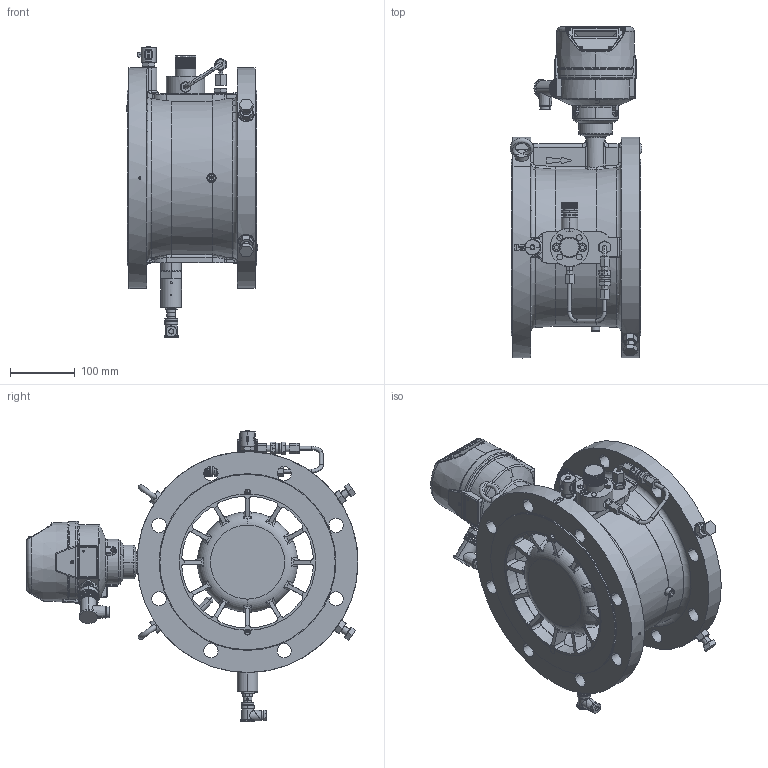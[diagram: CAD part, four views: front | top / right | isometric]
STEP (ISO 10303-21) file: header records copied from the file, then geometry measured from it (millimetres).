
FILE_DESCRIPTION((''),'2;1');
FILE_NAME('TRZ03K_DN200_PN10_L_R','2022-02-17T15:39:04',('R74676'),(''),'CREO PARAMETRIC BY PTC INC, 2020281','CREO PARAMETRIC BY PTC INC, 2020281','');
FILE_SCHEMA(('AP242_MANAGED_MODEL_BASED_3D_ENGINEERING_MIM_LF { 1 0 10303 442 1 1 4 }'));
Products named in the file (2): TRZ03K_DN200_PN10_L_R; 10038_S235JRG2
Bounding box: 203 x 511 x 448.35 mm (x, y, z)
Surface area: 836546.1 mm2 (no closed solid volume)
Topology: 0 solids, 122 shells, 1180 faces, 4957 edges, 3696 vertices
Faces by surface type: plane 455, cylinder 372, cone 122, bspline 106, torus 99, sphere 26
Entity records: 85916 total; most frequent: CARTESIAN_POINT 23857, DIRECTION 7586, ORIENTED_EDGE 7326, PRESENTATION_STYLE_ASSIGNMENT 6061, STYLED_ITEM 4992, CURVE_STYLE 4945, EDGE_CURVE 4941, VERTEX_POINT 3696
